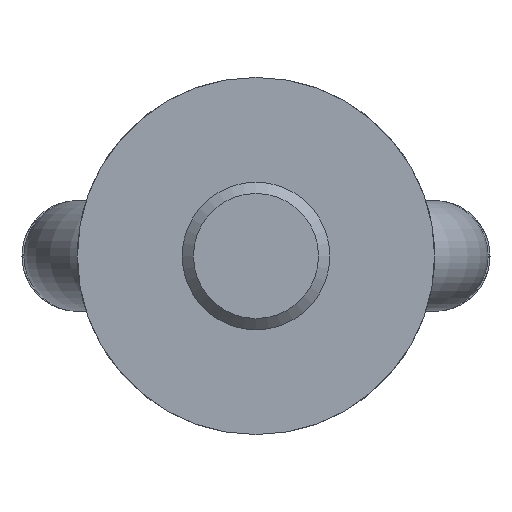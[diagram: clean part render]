
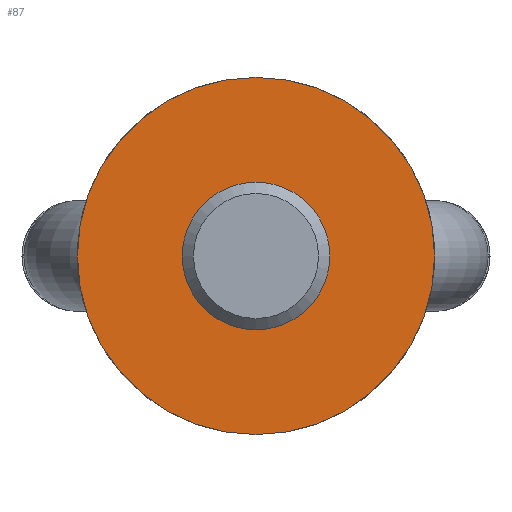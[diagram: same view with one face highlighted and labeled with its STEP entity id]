
A CAD part, front view. The second image highlights one B-rep face of the part: STEP entity #87.
In plain terms, the highlighted planar face has unit normal (0, -1, 0).
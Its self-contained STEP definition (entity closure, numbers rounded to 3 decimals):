
#87 = ADVANCED_FACE( '', ( #134, #135 ), #136, .F. );
#134 = FACE_BOUND( '', #204, .T. );
#135 = FACE_OUTER_BOUND( '', #205, .T. );
#136 = PLANE( '', #206 );
#204 = EDGE_LOOP( '', ( #341 ) );
#205 = EDGE_LOOP( '', ( #342 ) );
#206 = AXIS2_PLACEMENT_3D( '', #343, #344, #345 );
#341 = ORIENTED_EDGE( '', *, *, #475, .T. );
#342 = ORIENTED_EDGE( '', *, *, #470, .T. );
#343 = CARTESIAN_POINT( '', ( 29., 0., 0. ) );
#344 = DIRECTION( '', ( 0., 1., 0. ) );
#345 = DIRECTION( '', ( 0., 0., 1. ) );
#470 = EDGE_CURVE( '', #555, #555, #556, .T. );
#475 = EDGE_CURVE( '', #561, #561, #562, .T. );
#555 = VERTEX_POINT( '', #1053 );
#556 = CIRCLE( '', #1054, 29. );
#561 = VERTEX_POINT( '', #1059 );
#562 = CIRCLE( '', #1060, 12. );
#1053 = CARTESIAN_POINT( '', ( 0., 0., -29. ) );
#1054 = AXIS2_PLACEMENT_3D( '', #1120, #1121, #1122 );
#1059 = CARTESIAN_POINT( '', ( 0., 0., 12. ) );
#1060 = AXIS2_PLACEMENT_3D( '', #1135, #1136, #1137 );
#1120 = CARTESIAN_POINT( '', ( 0., 0., 0. ) );
#1121 = DIRECTION( '', ( 0., -1., 0. ) );
#1122 = DIRECTION( '', ( 0., 0., -1. ) );
#1135 = CARTESIAN_POINT( '', ( 0., 0., 0. ) );
#1136 = DIRECTION( '', ( 0., 1., 0. ) );
#1137 = DIRECTION( '', ( 0., 0., 1. ) );
